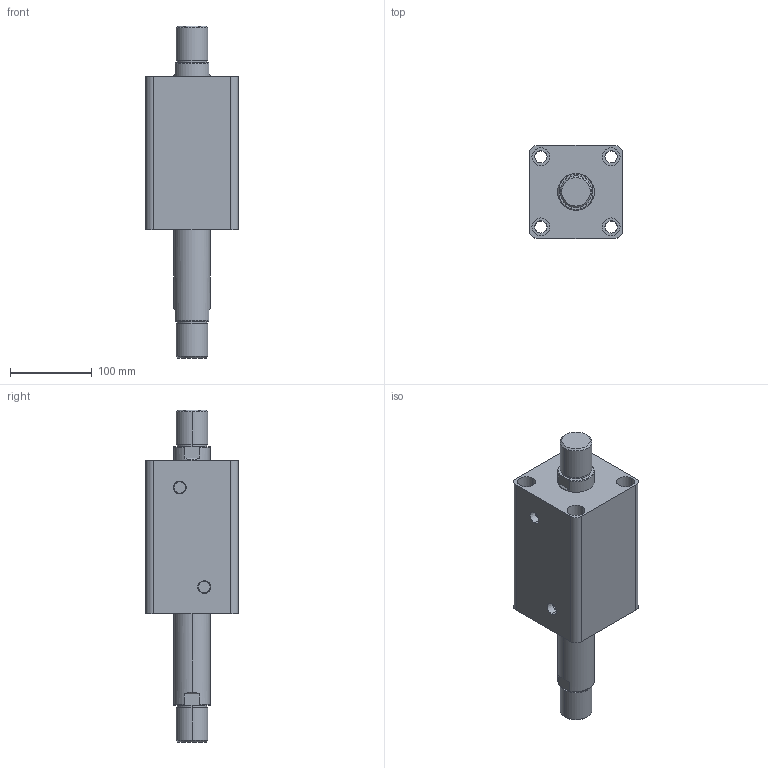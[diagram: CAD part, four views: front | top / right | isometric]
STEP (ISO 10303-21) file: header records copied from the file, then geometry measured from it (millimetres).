
FILE_DESCRIPTION (( 'STEP AP203' ), '1' );
FILE_NAME ('HTB-SW80-95W.STEP', '2019-10-07T10:27:39', ( '微软用户' ), ( '微软中国' ), 'SwSTEP 2.0', 'SolidWorks 2012', '' );
FILE_SCHEMA (( 'CONFIG_CONTROL_DESIGN' ));
Length unit declared in the file: millimetre
Products named in the file (3): HTB-SW80-95W; HTB-SW80-95W活塞杆; HTB-SW80-95掛极
Assembly tree (2 placements, depth 2):
  HTB-SW80-95W
    HTB-SW80-95掛极
    HTB-SW80-95W活塞杆
Bounding box: 114 x 114 x 407 mm (x, y, z)
Volume: 2248848.5 mm3; surface area: 259703.8 mm2
Topology: 2 solids, 2 shells, 108 faces, 240 edges, 156 vertices
Faces by surface type: cylinder 52, plane 36, torus 12, cone 8
Entity records: 3449 total; most frequent: CARTESIAN_POINT 629, DIRECTION 586, ORIENTED_EDGE 480, AXIS2_PLACEMENT_3D 249, EDGE_CURVE 240, VERTEX_POINT 156, EDGE_LOOP 138, CIRCLE 136
